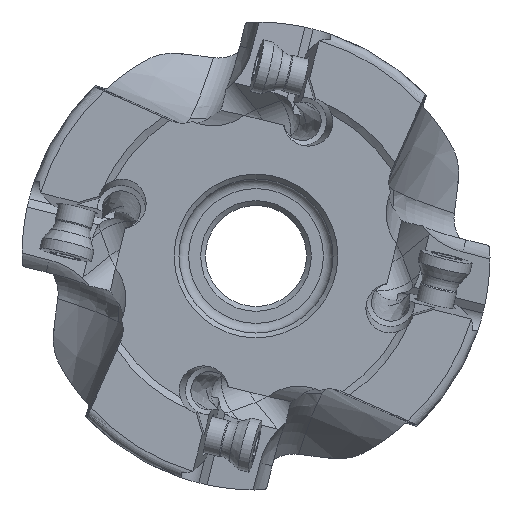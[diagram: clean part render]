
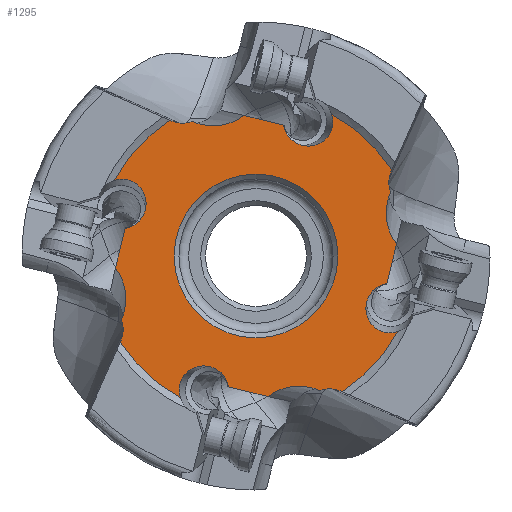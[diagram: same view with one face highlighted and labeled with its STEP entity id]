
A CAD part, left-side view. The second image highlights one B-rep face of the part: STEP entity #1295.
In plain terms, the highlighted planar face has unit normal (-1, 0, 0).
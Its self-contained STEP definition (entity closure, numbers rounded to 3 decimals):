
#277=ELLIPSE('',#6326,5.142,5.);
#278=ELLIPSE('',#6327,3.012,3.);
#279=ELLIPSE('',#6328,2.57,2.5);
#280=ELLIPSE('',#6329,5.142,5.);
#281=ELLIPSE('',#6330,3.012,3.);
#282=ELLIPSE('',#6331,2.57,2.5);
#283=ELLIPSE('',#6332,5.142,5.);
#284=ELLIPSE('',#6333,3.012,3.);
#285=ELLIPSE('',#6334,2.57,2.5);
#286=ELLIPSE('',#6335,5.142,5.);
#287=ELLIPSE('',#6336,3.012,3.);
#288=ELLIPSE('',#6338,2.57,2.5);
#447=LINE('',#10095,#639);
#448=LINE('',#10102,#640);
#449=LINE('',#10105,#641);
#450=LINE('',#10111,#642);
#451=LINE('',#10114,#643);
#452=LINE('',#10120,#644);
#453=LINE('',#10123,#645);
#454=LINE('',#10129,#646);
#639=VECTOR('',#7574,1.);
#640=VECTOR('',#7579,1.);
#641=VECTOR('',#7582,1.);
#642=VECTOR('',#7587,1.);
#643=VECTOR('',#7590,1.);
#644=VECTOR('',#7595,1.);
#645=VECTOR('',#7598,1.);
#646=VECTOR('',#7603,1.);
#1062=FACE_BOUND('',#2098,.T.);
#1063=FACE_BOUND('',#2099,.T.);
#1295=ADVANCED_FACE('',(#1062,#1063),#1559,.T.);
#1559=PLANE('',#6340);
#2098=EDGE_LOOP('',(#2977,#2978,#2979,#2980,#2981,#2982,#2983,#2984,#2985,
#2986,#2987,#2988,#2989,#2990,#2991,#2992,#2993,#2994,#2995,#2996,#2997,
#2998,#2999,#3000));
#2099=EDGE_LOOP('',(#3001));
#2977=ORIENTED_EDGE('',*,*,#5072,.F.);
#2978=ORIENTED_EDGE('',*,*,#5073,.F.);
#2979=ORIENTED_EDGE('',*,*,#5074,.F.);
#2980=ORIENTED_EDGE('',*,*,#5075,.T.);
#2981=ORIENTED_EDGE('',*,*,#4964,.F.);
#2982=ORIENTED_EDGE('',*,*,#5076,.F.);
#2983=ORIENTED_EDGE('',*,*,#5077,.F.);
#2984=ORIENTED_EDGE('',*,*,#5078,.F.);
#2985=ORIENTED_EDGE('',*,*,#5079,.F.);
#2986=ORIENTED_EDGE('',*,*,#5080,.T.);
#2987=ORIENTED_EDGE('',*,*,#5007,.F.);
#2988=ORIENTED_EDGE('',*,*,#5081,.F.);
#2989=ORIENTED_EDGE('',*,*,#5082,.F.);
#2990=ORIENTED_EDGE('',*,*,#5083,.F.);
#2991=ORIENTED_EDGE('',*,*,#5084,.F.);
#2992=ORIENTED_EDGE('',*,*,#5085,.T.);
#2993=ORIENTED_EDGE('',*,*,#5050,.F.);
#2994=ORIENTED_EDGE('',*,*,#5086,.F.);
#2995=ORIENTED_EDGE('',*,*,#5087,.F.);
#2996=ORIENTED_EDGE('',*,*,#5088,.F.);
#2997=ORIENTED_EDGE('',*,*,#5089,.F.);
#2998=ORIENTED_EDGE('',*,*,#5090,.T.);
#2999=ORIENTED_EDGE('',*,*,#5091,.F.);
#3000=ORIENTED_EDGE('',*,*,#5092,.F.);
#3001=ORIENTED_EDGE('',*,*,#5093,.T.);
#4300=VERTEX_POINT('',#9476);
#4301=VERTEX_POINT('',#9477);
#4333=VERTEX_POINT('',#9720);
#4334=VERTEX_POINT('',#9721);
#4366=VERTEX_POINT('',#9970);
#4367=VERTEX_POINT('',#9971);
#4382=VERTEX_POINT('',#10096);
#4383=VERTEX_POINT('',#10097);
#4384=VERTEX_POINT('',#10099);
#4385=VERTEX_POINT('',#10101);
#4386=VERTEX_POINT('',#10104);
#4387=VERTEX_POINT('',#10106);
#4388=VERTEX_POINT('',#10108);
#4389=VERTEX_POINT('',#10110);
#4390=VERTEX_POINT('',#10113);
#4391=VERTEX_POINT('',#10115);
#4392=VERTEX_POINT('',#10117);
#4393=VERTEX_POINT('',#10119);
#4394=VERTEX_POINT('',#10122);
#4395=VERTEX_POINT('',#10124);
#4396=VERTEX_POINT('',#10126);
#4397=VERTEX_POINT('',#10128);
#4398=VERTEX_POINT('',#10130);
#4399=VERTEX_POINT('',#10132);
#4400=VERTEX_POINT('',#10135);
#4964=EDGE_CURVE('',#4300,#4301,#5761,.T.);
#5007=EDGE_CURVE('',#4333,#4334,#5771,.T.);
#5050=EDGE_CURVE('',#4366,#4367,#5781,.T.);
#5072=EDGE_CURVE('',#4382,#4383,#447,.T.);
#5073=EDGE_CURVE('',#4384,#4382,#277,.T.);
#5074=EDGE_CURVE('',#4385,#4384,#278,.T.);
#5075=EDGE_CURVE('',#4385,#4301,#448,.T.);
#5076=EDGE_CURVE('',#4386,#4300,#279,.T.);
#5077=EDGE_CURVE('',#4387,#4386,#449,.T.);
#5078=EDGE_CURVE('',#4388,#4387,#280,.T.);
#5079=EDGE_CURVE('',#4389,#4388,#281,.T.);
#5080=EDGE_CURVE('',#4389,#4334,#450,.T.);
#5081=EDGE_CURVE('',#4390,#4333,#282,.T.);
#5082=EDGE_CURVE('',#4391,#4390,#451,.T.);
#5083=EDGE_CURVE('',#4392,#4391,#283,.T.);
#5084=EDGE_CURVE('',#4393,#4392,#284,.T.);
#5085=EDGE_CURVE('',#4393,#4367,#452,.T.);
#5086=EDGE_CURVE('',#4394,#4366,#285,.T.);
#5087=EDGE_CURVE('',#4395,#4394,#453,.T.);
#5088=EDGE_CURVE('',#4396,#4395,#286,.T.);
#5089=EDGE_CURVE('',#4397,#4396,#287,.T.);
#5090=EDGE_CURVE('',#4397,#4398,#454,.T.);
#5091=EDGE_CURVE('',#4399,#4398,#5785,.T.);
#5092=EDGE_CURVE('',#4383,#4399,#288,.T.);
#5093=EDGE_CURVE('',#4400,#4400,#5786,.T.);
#5761=CIRCLE('',#6255,16.686);
#5771=CIRCLE('',#6283,16.686);
#5781=CIRCLE('',#6311,16.686);
#5785=CIRCLE('',#6337,16.686);
#5786=CIRCLE('',#6339,8.5);
#6255=AXIS2_PLACEMENT_3D('',#9475,#7426,#7427);
#6283=AXIS2_PLACEMENT_3D('',#9719,#7485,#7486);
#6311=AXIS2_PLACEMENT_3D('',#9969,#7544,#7545);
#6326=AXIS2_PLACEMENT_3D('',#10098,#7575,#7576);
#6327=AXIS2_PLACEMENT_3D('',#10100,#7577,#7578);
#6328=AXIS2_PLACEMENT_3D('',#10103,#7580,#7581);
#6329=AXIS2_PLACEMENT_3D('',#10107,#7583,#7584);
#6330=AXIS2_PLACEMENT_3D('',#10109,#7585,#7586);
#6331=AXIS2_PLACEMENT_3D('',#10112,#7588,#7589);
#6332=AXIS2_PLACEMENT_3D('',#10116,#7591,#7592);
#6333=AXIS2_PLACEMENT_3D('',#10118,#7593,#7594);
#6334=AXIS2_PLACEMENT_3D('',#10121,#7596,#7597);
#6335=AXIS2_PLACEMENT_3D('',#10125,#7599,#7600);
#6336=AXIS2_PLACEMENT_3D('',#10127,#7601,#7602);
#6337=AXIS2_PLACEMENT_3D('',#10131,#7604,#7605);
#6338=AXIS2_PLACEMENT_3D('',#10133,#7606,#7607);
#6339=AXIS2_PLACEMENT_3D('',#10134,#7608,#7609);
#6340=AXIS2_PLACEMENT_3D('',#10136,#7610,#7611);
#7426=DIRECTION('',(1.,0.,0.));
#7427=DIRECTION('',(0.,0.,-1.));
#7485=DIRECTION('',(1.,0.,0.));
#7486=DIRECTION('',(0.,0.,-1.));
#7544=DIRECTION('',(1.,0.,0.));
#7545=DIRECTION('',(0.,0.,-1.));
#7574=DIRECTION('',(0.,0.97,0.241));
#7575=DIRECTION('',(-1.,0.,0.));
#7576=DIRECTION('',(0.,0.977,0.212));
#7577=DIRECTION('',(-1.,0.,0.));
#7578=DIRECTION('',(0.,-0.947,-0.322));
#7579=DIRECTION('',(0.,-0.914,-0.406));
#7580=DIRECTION('',(-1.,0.,0.));
#7581=DIRECTION('',(0.,0.127,-0.992));
#7582=DIRECTION('',(0.,0.241,-0.97));
#7583=DIRECTION('',(-1.,0.,0.));
#7584=DIRECTION('',(0.,0.212,-0.977));
#7585=DIRECTION('',(-1.,0.,0.));
#7586=DIRECTION('',(0.,-0.322,0.947));
#7587=DIRECTION('',(0.,-0.406,0.914));
#7588=DIRECTION('',(-1.,0.,0.));
#7589=DIRECTION('',(0.,-0.992,-0.127));
#7590=DIRECTION('',(0.,-0.97,-0.241));
#7591=DIRECTION('',(-1.,0.,0.));
#7592=DIRECTION('',(0.,-0.977,-0.212));
#7593=DIRECTION('',(-1.,0.,0.));
#7594=DIRECTION('',(0.,0.947,0.322));
#7595=DIRECTION('',(0.,0.914,0.406));
#7596=DIRECTION('',(-1.,0.,0.));
#7597=DIRECTION('',(0.,-0.127,0.992));
#7598=DIRECTION('',(0.,-0.241,0.97));
#7599=DIRECTION('',(-1.,0.,0.));
#7600=DIRECTION('',(0.,-0.212,0.977));
#7601=DIRECTION('',(-1.,0.,0.));
#7602=DIRECTION('',(0.,0.322,-0.947));
#7603=DIRECTION('',(0.,0.406,-0.914));
#7604=DIRECTION('',(1.,0.,0.));
#7605=DIRECTION('',(0.,0.,-1.));
#7606=DIRECTION('',(-1.,0.,0.));
#7607=DIRECTION('',(0.,0.992,0.127));
#7608=DIRECTION('',(1.,0.,0.));
#7609=DIRECTION('',(0.,0.,1.));
#7610=DIRECTION('',(-1.,0.,0.));
#7611=DIRECTION('',(0.,0.,1.));
#9475=CARTESIAN_POINT('',(1.5,0.,0.));
#9476=CARTESIAN_POINT('',(1.5,-14.73,-7.839));
#9477=CARTESIAN_POINT('',(1.5,-8.941,-14.088));
#9719=CARTESIAN_POINT('',(1.5,0.,0.));
#9720=CARTESIAN_POINT('',(1.5,-7.839,14.73));
#9721=CARTESIAN_POINT('',(1.5,-14.088,8.941));
#9969=CARTESIAN_POINT('',(1.5,0.,0.));
#9970=CARTESIAN_POINT('',(1.5,14.73,7.839));
#9971=CARTESIAN_POINT('',(1.5,8.941,14.088));
#10095=CARTESIAN_POINT('',(1.5,19.062,-9.558));
#10096=CARTESIAN_POINT('',(1.5,-1.272,-14.614));
#10097=CARTESIAN_POINT('',(1.5,2.874,-13.583));
#10098=CARTESIAN_POINT('',(1.5,-4.535,-18.517));
#10099=CARTESIAN_POINT('',(1.5,-6.607,-13.959));
#10100=CARTESIAN_POINT('',(1.5,-7.624,-16.786));
#10101=CARTESIAN_POINT('',(1.5,-8.843,-14.045));
#10102=CARTESIAN_POINT('',(1.5,17.693,-2.269));
#10103=CARTESIAN_POINT('',(1.5,-13.913,-5.417));
#10104=CARTESIAN_POINT('',(1.5,-13.583,-2.874));
#10105=CARTESIAN_POINT('',(1.5,-12.493,-7.255));
#10106=CARTESIAN_POINT('',(1.5,-14.614,1.272));
#10107=CARTESIAN_POINT('',(1.5,-18.517,4.535));
#10108=CARTESIAN_POINT('',(1.5,-13.959,6.607));
#10109=CARTESIAN_POINT('',(1.5,-16.786,7.624));
#10110=CARTESIAN_POINT('',(1.5,-14.045,8.843));
#10111=CARTESIAN_POINT('',(1.5,-5.71,-9.939));
#10112=CARTESIAN_POINT('',(1.5,-5.417,13.913));
#10113=CARTESIAN_POINT('',(1.5,-2.874,13.583));
#10114=CARTESIAN_POINT('',(1.5,12.366,17.372));
#10115=CARTESIAN_POINT('',(1.5,1.272,14.614));
#10116=CARTESIAN_POINT('',(1.5,4.535,18.517));
#10117=CARTESIAN_POINT('',(1.5,6.607,13.959));
#10118=CARTESIAN_POINT('',(1.5,7.624,16.786));
#10119=CARTESIAN_POINT('',(1.5,8.843,14.045));
#10120=CARTESIAN_POINT('',(1.5,10.188,14.642));
#10121=CARTESIAN_POINT('',(1.5,13.913,5.417));
#10122=CARTESIAN_POINT('',(1.5,13.583,2.874));
#10123=CARTESIAN_POINT('',(1.5,14.436,-0.559));
#10124=CARTESIAN_POINT('',(1.5,14.614,-1.272));
#10125=CARTESIAN_POINT('',(1.5,18.517,-4.535));
#10126=CARTESIAN_POINT('',(1.5,13.959,-6.607));
#10127=CARTESIAN_POINT('',(1.5,16.786,-7.624));
#10128=CARTESIAN_POINT('',(1.5,14.045,-8.843));
#10129=CARTESIAN_POINT('',(1.5,11.201,-2.434));
#10130=CARTESIAN_POINT('',(1.5,14.088,-8.941));
#10131=CARTESIAN_POINT('',(1.5,0.,0.));
#10132=CARTESIAN_POINT('',(1.5,7.839,-14.73));
#10133=CARTESIAN_POINT('',(1.5,5.417,-13.913));
#10134=CARTESIAN_POINT('',(1.5,0.,0.));
#10135=CARTESIAN_POINT('',(1.5,0.,8.5));
#10136=CARTESIAN_POINT('',(1.5,16.686,0.));
